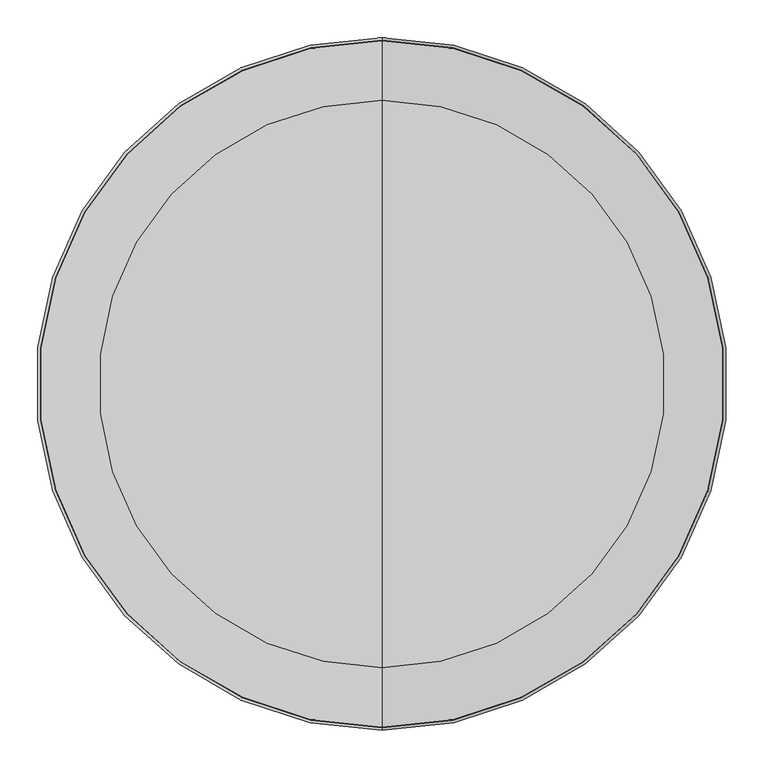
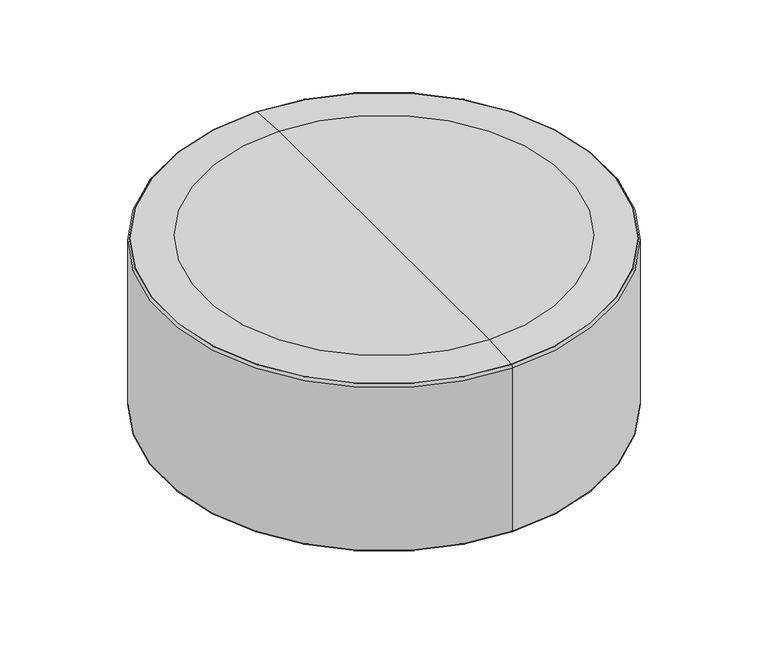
"""IFC4 building model written with IfcOpenShell, lengths in millimetres: furniture geometry, Indiana-Otty-Ottoman_Round : 840-3615RO."""

from ifc_helpers import new_model, si_unit, point, frame, origin, place, context, project, spatial, polyline, circle_curve, ellipse_curve, trimmed, source, transform, mapped, element, save
from ifc_brep_helpers import plane_surface, cylinder_surface, revolved_surface, advanced_brep


def furniture_98ce93dc(model_context):
    return source(origin(), model_context, "Body", "AdvancedBrep", [
        advanced_brep(
        [(374.4189295, 85.5904719, 19.8875), (354.9333579, 96.8404719, 19.8875), (393.9045011, 74.3404719, 19.8875), (355.3217632, 96.616226, 4.2458827), (393.5160958, 74.5647178, 4.2458827), (359.2060099, 94.3736551, -0.1125), (389.6318491, 76.8072887, -0.1125), (365.5269116, 90.7242808, -0.1125), (383.3109474, 80.456663, -0.1125), (368.8996269, 88.7770427, 3.9179615), (379.9382321, 82.4039011, 3.9179615), (374.4189295, 85.5904719, 3.9179615)],
        [
            (0, 1),
            (1, 2, circle_curve(frame((374.4189295, 85.5904719, 19.8875), z_axis=(0.0, 0.0, 1.0), x_axis=(-0.8660254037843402, 0.5000000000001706, 0.0)), 22.5)),
            (2, 0),
            (2, 1, circle_curve(frame((374.4189295, 85.5904719, 19.8875), z_axis=(0.0, 0.0, 1.0), x_axis=(-0.8660254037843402, 0.5000000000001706, 0.0)), 22.5)),
            (1, 3),
            (3, 4, circle_curve(frame((374.4189295, 85.5904719, 4.2458827), z_axis=(0.0, 0.0, 1.0), x_axis=(-0.8660254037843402, 0.5000000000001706, 0.0)), 22.0515082)),
            (4, 2),
            (4, 3, circle_curve(frame((374.4189295, 85.5904719, 4.2458827), z_axis=(0.0, 0.0, 1.0), x_axis=(-0.8660254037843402, 0.5000000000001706, 0.0)), 22.0515082)),
            (3, 5, circle_curve(frame((359.2060099, 94.3736551, 4.3744851), z_axis=(-0.5000000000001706, -0.8660254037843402, 0.0), x_axis=(0.8660254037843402, -0.5000000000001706, 0.0)), 4.4869851)),
            (5, 6, circle_curve(frame((374.4189295, 85.5904719, -0.1125), z_axis=(0.0, 0.0, 1.0), x_axis=(-0.8660254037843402, 0.5000000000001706, 0.0)), 17.5663665)),
            (6, 4, circle_curve(frame((389.6318491, 76.8072887, 4.3744851), z_axis=(-0.5000000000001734, -0.8660254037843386, 0.0), x_axis=(-0.8660254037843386, 0.5000000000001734, 0.0)), 4.4869851)),
            (6, 5, circle_curve(frame((374.4189295, 85.5904719, -0.1125), z_axis=(0.0, 0.0, 1.0), x_axis=(-0.8660254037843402, 0.5000000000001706, 0.0)), 17.5663665)),
            (5, 7),
            (7, 8, circle_curve(frame((374.4189295, 85.5904719, -0.1125), z_axis=(0.0, 0.0, 1.0), x_axis=(-0.8660254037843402, 0.5000000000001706, 0.0)), 10.2676178)),
            (8, 6),
            (8, 7, circle_curve(frame((374.4189295, 85.5904719, -0.1125), z_axis=(0.0, 0.0, 1.0), x_axis=(-0.8660254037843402, 0.5000000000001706, 0.0)), 10.2676178)),
            (7, 9, circle_curve(frame((365.5269116, 90.7242808, 3.7842702), z_axis=(-0.5000000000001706, -0.8660254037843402, 0.0), x_axis=(0.8660254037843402, -0.5000000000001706, 0.0)), 3.8967702)),
            (9, 10, circle_curve(frame((374.4189295, 85.5904719, 3.9179615), z_axis=(0.0, 0.0, 1.0), x_axis=(-0.8660254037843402, 0.5000000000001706, 0.0)), 6.3731417)),
            (10, 8, circle_curve(frame((383.3109474, 80.456663, 3.7842702), z_axis=(-0.5000000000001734, -0.8660254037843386, 0.0), x_axis=(-0.8660254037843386, 0.5000000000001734, 0.0)), 3.8967702)),
            (10, 9, circle_curve(frame((374.4189295, 85.5904719, 3.9179615), z_axis=(0.0, 0.0, 1.0), x_axis=(-0.8660254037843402, 0.5000000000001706, 0.0)), 6.3731417)),
            (9, 11),
            (11, 10),
        ],
        [
            plane_surface(frame((374.4189295, 85.5904719, 19.8875), z_axis=(0.0, 0.0, 1.0000000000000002), x_axis=(-0.8660254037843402, 0.5000000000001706, 0.0))),
            revolved_surface(polyline([(355.3217632, 96.616226, 4.2458827), (354.9333579, 96.8404719, 19.8875)]), (374.4189295, 85.5904719, 31.0803862), (0.0, 0.0, 1.0)),
            revolved_surface(trimmed(ellipse_curve(frame((359.2060099, 94.3736551, 4.3744851), z_axis=(0.5000000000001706, 0.8660254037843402, 0.0), x_axis=(0.8660254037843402, -0.5000000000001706, 0.0)), 4.4869851, 4.4869851), [point((359.2060099, 94.3736551, -0.1125))], [point((355.3217632, 96.616226, 4.2458827))], True, "CARTESIAN"), (374.4189295, 85.5904719, 31.0803862), (0.0, 0.0, 1.0)),
            plane_surface(frame((374.4189295, 85.5904719, -0.1125), z_axis=(0.0, 0.0, -1.0000000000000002), x_axis=(-0.8660254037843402, 0.5000000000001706, 0.0))),
            revolved_surface(trimmed(ellipse_curve(frame((365.5269116, 90.7242808, 3.7842702), z_axis=(0.5000000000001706, 0.8660254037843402, 0.0), x_axis=(0.8660254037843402, -0.5000000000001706, 0.0)), 3.8967702, 3.8967702), [point((368.8996269, 88.7770427, 3.9179615))], [point((365.5269116, 90.7242808, -0.1125))], True, "CARTESIAN"), (374.4189295, 85.5904719, 31.0803862), (0.0, 0.0, 1.0)),
            plane_surface(frame((374.4189295, 85.5904719, 3.9179615), z_axis=(0.0, 0.0, -1.0000000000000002), x_axis=(-0.8660254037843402, 0.5000000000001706, 0.0))),
        ],
        [
            (0, [[1, 2, 3]]),
            (0, [[-3, 4, -1]]),
            (1, [[-2, 5, 6, 7]]),
            (1, [[-4, -7, 8, -5]]),
            (2, [[-6, 9, 10, 11]]),
            (2, [[-8, -11, 12, -9]]),
            (3, [[-10, 13, 14, 15]]),
            (3, [[-12, -15, 16, -13]]),
            (4, [[-14, 17, 18, 19]]),
            (4, [[-16, -19, 20, -17]]),
            (5, [[-18, 21, 22]]),
            (5, [[-20, -22, -21]]),
        ],
    ),
        advanced_brep(
        [(261.3329878, -281.4610687, 19.8875), (261.3329878, -258.9610687, 19.8875), (261.3329878, -303.9610687, 19.8875), (261.3329878, -259.4095604, 4.2458827), (261.3329878, -303.5125769, 4.2458827), (261.3329878, -263.8947022, -0.1125), (261.3329878, -299.0274351, -0.1125), (261.3329878, -271.1934508, -0.1125), (261.3329878, -291.7286865, -0.1125), (261.3329878, -275.087927, 3.9179615), (261.3329878, -287.8342103, 3.9179615), (261.3329878, -281.4610687, 3.9179615)],
        [
            (0, 1),
            (1, 2, circle_curve(frame((261.3329878, -281.4610687, 19.8875), z_axis=(0.0, 0.0, 1.0), x_axis=(0.0, 1.0, 0.0)), 22.5)),
            (2, 0),
            (2, 1, circle_curve(frame((261.3329878, -281.4610687, 19.8875), z_axis=(0.0, 0.0, 1.0), x_axis=(0.0, 1.0, 0.0)), 22.5)),
            (1, 3),
            (3, 4, circle_curve(frame((261.3329878, -281.4610687, 4.2458827), z_axis=(0.0, 0.0, 1.0), x_axis=(0.0, 1.0, 0.0)), 22.0515082)),
            (4, 2),
            (4, 3, circle_curve(frame((261.3329878, -281.4610687, 4.2458827), z_axis=(0.0, 0.0, 1.0), x_axis=(0.0, 1.0, 0.0)), 22.0515082)),
            (3, 5, circle_curve(frame((261.3329878, -263.8947022, 4.3744851), z_axis=(-1.0, 0.0, 0.0), x_axis=(0.0, -1.0, 0.0)), 4.4869851)),
            (5, 6, circle_curve(frame((261.3329878, -281.4610687, -0.1125), z_axis=(0.0, 0.0, 1.0), x_axis=(0.0, 1.0, 0.0)), 17.5663665)),
            (6, 4, circle_curve(frame((261.3329878, -299.0274351, 4.3744851), z_axis=(-1.0, 0.0, 0.0), x_axis=(0.0, 1.0, 0.0)), 4.4869851)),
            (6, 5, circle_curve(frame((261.3329878, -281.4610687, -0.1125), z_axis=(0.0, 0.0, 1.0), x_axis=(0.0, 1.0, 0.0)), 17.5663665)),
            (5, 7),
            (7, 8, circle_curve(frame((261.3329878, -281.4610687, -0.1125), z_axis=(0.0, 0.0, 1.0), x_axis=(0.0, 1.0, 0.0)), 10.2676178)),
            (8, 6),
            (8, 7, circle_curve(frame((261.3329878, -281.4610687, -0.1125), z_axis=(0.0, 0.0, 1.0), x_axis=(0.0, 1.0, 0.0)), 10.2676178)),
            (7, 9, circle_curve(frame((261.3329878, -271.1934508, 3.7842702), z_axis=(-1.0, 0.0, 0.0), x_axis=(0.0, -1.0, 0.0)), 3.8967702)),
            (9, 10, circle_curve(frame((261.3329878, -281.4610687, 3.9179615), z_axis=(0.0, 0.0, 1.0), x_axis=(0.0, 1.0, 0.0)), 6.3731417)),
            (10, 8, circle_curve(frame((261.3329878, -291.7286865, 3.7842702), z_axis=(-1.0, 0.0, 0.0), x_axis=(0.0, 1.0, 0.0)), 3.8967702)),
            (10, 9, circle_curve(frame((261.3329878, -281.4610687, 3.9179615), z_axis=(0.0, 0.0, 1.0), x_axis=(0.0, 1.0, 0.0)), 6.3731417)),
            (9, 11),
            (11, 10),
        ],
        [
            plane_surface(frame((261.3329878, -281.4610687, 19.8875), z_axis=(0.0, 0.0, 1.0), x_axis=(0.0, 1.0, 0.0))),
            revolved_surface(polyline([(261.3329878, -259.4095604, 4.2458827), (261.3329878, -258.9610687, 19.8875)]), (261.3329878, -281.4610687, 31.0803862), (0.0, 0.0, 1.0)),
            revolved_surface(trimmed(ellipse_curve(frame((261.3329878, -263.8947022, 4.3744851), z_axis=(1.0, 0.0, 0.0), x_axis=(0.0, -1.0, 0.0)), 4.4869851, 4.4869851), [point((261.3329878, -263.8947022, -0.1125))], [point((261.3329878, -259.4095604, 4.2458827))], True, "CARTESIAN"), (261.3329878, -281.4610687, 31.0803862), (0.0, 0.0, 1.0)),
            plane_surface(frame((261.3329878, -281.4610687, -0.1125), z_axis=(0.0, 0.0, -1.0), x_axis=(0.0, 1.0, 0.0))),
            revolved_surface(trimmed(ellipse_curve(frame((261.3329878, -271.1934508, 3.7842702), z_axis=(1.0, 0.0, 0.0), x_axis=(0.0, -1.0, 0.0)), 3.8967702, 3.8967702), [point((261.3329878, -275.087927, 3.9179615))], [point((261.3329878, -271.1934508, -0.1125))], True, "CARTESIAN"), (261.3329878, -281.4610687, 31.0803862), (0.0, 0.0, 1.0)),
            plane_surface(frame((261.3329878, -281.4610687, 3.9179615), z_axis=(0.0, 0.0, -1.0), x_axis=(0.0, 1.0, 0.0))),
        ],
        [
            (0, [[1, 2, 3]]),
            (0, [[-3, 4, -1]]),
            (1, [[-2, 5, 6, 7]]),
            (1, [[-4, -7, 8, -5]]),
            (2, [[-6, 9, 10, 11]]),
            (2, [[-8, -11, 12, -9]]),
            (3, [[-10, 13, 14, 15]]),
            (3, [[-12, -15, 16, -13]]),
            (4, [[-14, 17, 18, 19]]),
            (4, [[-16, -19, 20, -17]]),
            (5, [[-18, 21, 22]]),
            (5, [[-20, -22, -21]]),
        ],
    ),
        advanced_brep(
        [(-113.0859418, -367.0515406, 19.8875), (-93.6003702, -355.8015406, 19.8875), (-132.5715133, -378.3015406, 19.8875), (-93.9887754, -356.0257864, 4.2458827), (-132.1831081, -378.0772947, 4.2458827), (-97.8730221, -358.2683573, -0.1125), (-128.2988614, -375.8347238, -0.1125), (-104.1939239, -361.9177316, -0.1125), (-121.9779596, -372.1853495, -0.1125), (-107.5666392, -363.8649697, 3.9179615), (-118.6052443, -370.2381114, 3.9179615), (-113.0859418, -367.0515406, 3.9179615)],
        [
            (0, 1),
            (1, 2, circle_curve(frame((-113.0859418, -367.0515406, 19.8875), z_axis=(0.0, 0.0, 1.0), x_axis=(0.8660254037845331, 0.49999999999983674, 0.0)), 22.5)),
            (2, 0),
            (2, 1, circle_curve(frame((-113.0859418, -367.0515406, 19.8875), z_axis=(0.0, 0.0, 1.0), x_axis=(0.8660254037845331, 0.49999999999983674, 0.0)), 22.5)),
            (1, 3),
            (3, 4, circle_curve(frame((-113.0859418, -367.0515406, 4.2458827), z_axis=(0.0, 0.0, 1.0), x_axis=(0.8660254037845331, 0.49999999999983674, 0.0)), 22.0515082)),
            (4, 2),
            (4, 3, circle_curve(frame((-113.0859418, -367.0515406, 4.2458827), z_axis=(0.0, 0.0, 1.0), x_axis=(0.8660254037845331, 0.49999999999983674, 0.0)), 22.0515082)),
            (3, 5, circle_curve(frame((-97.8730221, -358.2683573, 4.3744851), z_axis=(-0.49999999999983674, 0.8660254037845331, 0.0), x_axis=(-0.8660254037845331, -0.49999999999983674, 0.0)), 4.4869851)),
            (5, 6, circle_curve(frame((-113.0859418, -367.0515406, -0.1125), z_axis=(0.0, 0.0, 1.0), x_axis=(0.8660254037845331, 0.49999999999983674, 0.0)), 17.5663665)),
            (6, 4, circle_curve(frame((-128.2988614, -375.8347238, 4.3744851), z_axis=(-0.49999999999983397, 0.8660254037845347, 0.0), x_axis=(0.8660254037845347, 0.49999999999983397, 0.0)), 4.4869851)),
            (6, 5, circle_curve(frame((-113.0859418, -367.0515406, -0.1125), z_axis=(0.0, 0.0, 1.0), x_axis=(0.8660254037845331, 0.49999999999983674, 0.0)), 17.5663665)),
            (5, 7),
            (7, 8, circle_curve(frame((-113.0859418, -367.0515406, -0.1125), z_axis=(0.0, 0.0, 1.0), x_axis=(0.8660254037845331, 0.49999999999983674, 0.0)), 10.2676178)),
            (8, 6),
            (8, 7, circle_curve(frame((-113.0859418, -367.0515406, -0.1125), z_axis=(0.0, 0.0, 1.0), x_axis=(0.8660254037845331, 0.49999999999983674, 0.0)), 10.2676178)),
            (7, 9, circle_curve(frame((-104.1939239, -361.9177316, 3.7842702), z_axis=(-0.49999999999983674, 0.8660254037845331, 0.0), x_axis=(-0.8660254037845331, -0.49999999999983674, 0.0)), 3.8967702)),
            (9, 10, circle_curve(frame((-113.0859418, -367.0515406, 3.9179615), z_axis=(0.0, 0.0, 1.0), x_axis=(0.8660254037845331, 0.49999999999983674, 0.0)), 6.3731417)),
            (10, 8, circle_curve(frame((-121.9779596, -372.1853495, 3.7842702), z_axis=(-0.49999999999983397, 0.8660254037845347, 0.0), x_axis=(0.8660254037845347, 0.49999999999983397, 0.0)), 3.8967702)),
            (10, 9, circle_curve(frame((-113.0859418, -367.0515406, 3.9179615), z_axis=(0.0, 0.0, 1.0), x_axis=(0.8660254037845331, 0.49999999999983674, 0.0)), 6.3731417)),
            (9, 11),
            (11, 10),
        ],
        [
            plane_surface(frame((-113.0859418, -367.0515406, 19.8875), z_axis=(0.0, 0.0, 1.0000000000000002), x_axis=(0.8660254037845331, 0.49999999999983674, 0.0))),
            revolved_surface(polyline([(-93.9887754, -356.0257864, 4.2458827), (-93.6003702, -355.8015406, 19.8875)]), (-113.0859418, -367.0515406, 31.0803862), (0.0, 0.0, 1.0)),
            revolved_surface(trimmed(ellipse_curve(frame((-97.8730221, -358.2683573, 4.3744851), z_axis=(0.49999999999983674, -0.8660254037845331, 0.0), x_axis=(-0.8660254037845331, -0.49999999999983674, 0.0)), 4.4869851, 4.4869851), [point((-97.8730221, -358.2683573, -0.1125))], [point((-93.9887754, -356.0257864, 4.2458827))], True, "CARTESIAN"), (-113.0859418, -367.0515406, 31.0803862), (0.0, 0.0, 1.0)),
            plane_surface(frame((-113.0859418, -367.0515406, -0.1125), z_axis=(0.0, 0.0, -1.0000000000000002), x_axis=(0.8660254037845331, 0.49999999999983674, 0.0))),
            revolved_surface(trimmed(ellipse_curve(frame((-104.1939239, -361.9177316, 3.7842702), z_axis=(0.49999999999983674, -0.8660254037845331, 0.0), x_axis=(-0.8660254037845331, -0.49999999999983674, 0.0)), 3.8967702, 3.8967702), [point((-107.5666392, -363.8649697, 3.9179615))], [point((-104.1939239, -361.9177316, -0.1125))], True, "CARTESIAN"), (-113.0859418, -367.0515406, 31.0803862), (0.0, 0.0, 1.0)),
            plane_surface(frame((-113.0859418, -367.0515406, 3.9179615), z_axis=(0.0, 0.0, -1.0000000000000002), x_axis=(0.8660254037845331, 0.49999999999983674, 0.0))),
        ],
        [
            (0, [[1, 2, 3]]),
            (0, [[-3, 4, -1]]),
            (1, [[-2, 5, 6, 7]]),
            (1, [[-4, -7, 8, -5]]),
            (2, [[-6, 9, 10, 11]]),
            (2, [[-8, -11, 12, -9]]),
            (3, [[-10, 13, 14, 15]]),
            (3, [[-12, -15, 16, -13]]),
            (4, [[-14, 17, 18, 19]]),
            (4, [[-16, -19, 20, -17]]),
            (5, [[-18, 21, 22]]),
            (5, [[-20, -22, -21]]),
        ],
    ),
        advanced_brep(
        [(-374.4189295, -85.5904719, 19.8875), (-354.9333579, -96.8404719, 19.8875), (-393.9045011, -74.3404719, 19.8875), (-355.3217632, -96.616226, 4.2458827), (-393.5160958, -74.5647178, 4.2458827), (-359.2060099, -94.3736551, -0.1125), (-389.6318491, -76.8072887, -0.1125), (-365.5269116, -90.7242808, -0.1125), (-383.3109474, -80.456663, -0.1125), (-368.8996269, -88.7770427, 3.9179615), (-379.9382321, -82.4039011, 3.9179615), (-374.4189295, -85.5904719, 3.9179615)],
        [
            (0, 1),
            (1, 2, circle_curve(frame((-374.4189295, -85.5904719, 19.8875), z_axis=(0.0, 0.0, 1.0), x_axis=(0.8660254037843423, -0.500000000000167, 0.0)), 22.5)),
            (2, 0),
            (2, 1, circle_curve(frame((-374.4189295, -85.5904719, 19.8875), z_axis=(0.0, 0.0, 1.0), x_axis=(0.8660254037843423, -0.500000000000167, 0.0)), 22.5)),
            (1, 3),
            (3, 4, circle_curve(frame((-374.4189295, -85.5904719, 4.2458827), z_axis=(0.0, 0.0, 1.0), x_axis=(0.8660254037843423, -0.500000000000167, 0.0)), 22.0515082)),
            (4, 2),
            (4, 3, circle_curve(frame((-374.4189295, -85.5904719, 4.2458827), z_axis=(0.0, 0.0, 1.0), x_axis=(0.8660254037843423, -0.500000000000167, 0.0)), 22.0515082)),
            (3, 5, circle_curve(frame((-359.2060099, -94.3736551, 4.3744851), z_axis=(0.500000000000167, 0.8660254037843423, 0.0), x_axis=(-0.8660254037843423, 0.500000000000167, 0.0)), 4.4869851)),
            (5, 6, circle_curve(frame((-374.4189295, -85.5904719, -0.1125), z_axis=(0.0, 0.0, 1.0), x_axis=(0.8660254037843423, -0.500000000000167, 0.0)), 17.5663665)),
            (6, 4, circle_curve(frame((-389.6318491, -76.8072887, 4.3744851), z_axis=(0.5000000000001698, 0.8660254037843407, 0.0), x_axis=(0.8660254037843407, -0.5000000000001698, 0.0)), 4.4869851)),
            (6, 5, circle_curve(frame((-374.4189295, -85.5904719, -0.1125), z_axis=(0.0, 0.0, 1.0), x_axis=(0.8660254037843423, -0.500000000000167, 0.0)), 17.5663665)),
            (5, 7),
            (7, 8, circle_curve(frame((-374.4189295, -85.5904719, -0.1125), z_axis=(0.0, 0.0, 1.0), x_axis=(0.8660254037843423, -0.500000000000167, 0.0)), 10.2676178)),
            (8, 6),
            (8, 7, circle_curve(frame((-374.4189295, -85.5904719, -0.1125), z_axis=(0.0, 0.0, 1.0), x_axis=(0.8660254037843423, -0.500000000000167, 0.0)), 10.2676178)),
            (7, 9, circle_curve(frame((-365.5269116, -90.7242808, 3.7842702), z_axis=(0.500000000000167, 0.8660254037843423, 0.0), x_axis=(-0.8660254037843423, 0.500000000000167, 0.0)), 3.8967702)),
            (9, 10, circle_curve(frame((-374.4189295, -85.5904719, 3.9179615), z_axis=(0.0, 0.0, 1.0), x_axis=(0.8660254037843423, -0.500000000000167, 0.0)), 6.3731417)),
            (10, 8, circle_curve(frame((-383.3109474, -80.456663, 3.7842702), z_axis=(0.5000000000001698, 0.8660254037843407, 0.0), x_axis=(0.8660254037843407, -0.5000000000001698, 0.0)), 3.8967702)),
            (10, 9, circle_curve(frame((-374.4189295, -85.5904719, 3.9179615), z_axis=(0.0, 0.0, 1.0), x_axis=(0.8660254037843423, -0.500000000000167, 0.0)), 6.3731417)),
            (9, 11),
            (11, 10),
        ],
        [
            plane_surface(frame((-374.4189295, -85.5904719, 19.8875), z_axis=(0.0, 0.0, 1.0000000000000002), x_axis=(0.8660254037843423, -0.500000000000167, 0.0))),
            revolved_surface(polyline([(-355.3217632, -96.616226, 4.2458827), (-354.9333579, -96.8404719, 19.8875)]), (-374.4189295, -85.5904719, 31.0803862), (0.0, 0.0, 1.0)),
            revolved_surface(trimmed(ellipse_curve(frame((-359.2060099, -94.3736551, 4.3744851), z_axis=(-0.500000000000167, -0.8660254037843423, 0.0), x_axis=(-0.8660254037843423, 0.500000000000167, 0.0)), 4.4869851, 4.4869851), [point((-359.2060099, -94.3736551, -0.1125))], [point((-355.3217632, -96.616226, 4.2458827))], True, "CARTESIAN"), (-374.4189295, -85.5904719, 31.0803862), (0.0, 0.0, 1.0)),
            plane_surface(frame((-374.4189295, -85.5904719, -0.1125), z_axis=(0.0, 0.0, -1.0000000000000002), x_axis=(0.8660254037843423, -0.500000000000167, 0.0))),
            revolved_surface(trimmed(ellipse_curve(frame((-365.5269116, -90.7242808, 3.7842702), z_axis=(-0.500000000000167, -0.8660254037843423, 0.0), x_axis=(-0.8660254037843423, 0.500000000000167, 0.0)), 3.8967702, 3.8967702), [point((-368.8996269, -88.7770427, 3.9179615))], [point((-365.5269116, -90.7242808, -0.1125))], True, "CARTESIAN"), (-374.4189295, -85.5904719, 31.0803862), (0.0, 0.0, 1.0)),
            plane_surface(frame((-374.4189295, -85.5904719, 3.9179615), z_axis=(0.0, 0.0, -1.0000000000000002), x_axis=(0.8660254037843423, -0.500000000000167, 0.0))),
        ],
        [
            (0, [[1, 2, 3]]),
            (0, [[-3, 4, -1]]),
            (1, [[-2, 5, 6, 7]]),
            (1, [[-4, -7, 8, -5]]),
            (2, [[-6, 9, 10, 11]]),
            (2, [[-8, -11, 12, -9]]),
            (3, [[-10, 13, 14, 15]]),
            (3, [[-12, -15, 16, -13]]),
            (4, [[-14, 17, 18, 19]]),
            (4, [[-16, -19, 20, -17]]),
            (5, [[-18, 21, 22]]),
            (5, [[-20, -22, -21]]),
        ],
    ),
        advanced_brep(
        [(113.0859418, 367.0515406, 19.8875), (93.6003702, 355.8015406, 19.8875), (132.5715133, 378.3015406, 19.8875), (93.9887754, 356.0257864, 4.2458827), (132.1831081, 378.0772947, 4.2458827), (97.8730221, 358.2683573, -0.1125), (128.2988614, 375.8347238, -0.1125), (104.1939239, 361.9177316, -0.1125), (121.9779596, 372.1853495, -0.1125), (107.5666392, 363.8649697, 3.9179615), (118.6052443, 370.2381114, 3.9179615), (113.0859418, 367.0515406, 3.9179615)],
        [
            (0, 1),
            (1, 2, circle_curve(frame((113.0859418, 367.0515406, 19.8875), z_axis=(0.0, 0.0, 1.0), x_axis=(-0.8660254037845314, -0.49999999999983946, 0.0)), 22.5)),
            (2, 0),
            (2, 1, circle_curve(frame((113.0859418, 367.0515406, 19.8875), z_axis=(0.0, 0.0, 1.0), x_axis=(-0.8660254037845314, -0.49999999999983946, 0.0)), 22.5)),
            (1, 3),
            (3, 4, circle_curve(frame((113.0859418, 367.0515406, 4.2458827), z_axis=(0.0, 0.0, 1.0), x_axis=(-0.8660254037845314, -0.49999999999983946, 0.0)), 22.0515082)),
            (4, 2),
            (4, 3, circle_curve(frame((113.0859418, 367.0515406, 4.2458827), z_axis=(0.0, 0.0, 1.0), x_axis=(-0.8660254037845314, -0.49999999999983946, 0.0)), 22.0515082)),
            (3, 5, circle_curve(frame((97.8730221, 358.2683573, 4.3744851), z_axis=(0.49999999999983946, -0.8660254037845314, 0.0), x_axis=(0.8660254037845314, 0.49999999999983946, 0.0)), 4.4869851)),
            (5, 6, circle_curve(frame((113.0859418, 367.0515406, -0.1125), z_axis=(0.0, 0.0, 1.0), x_axis=(-0.8660254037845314, -0.49999999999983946, 0.0)), 17.5663665)),
            (6, 4, circle_curve(frame((128.2988614, 375.8347238, 4.3744851), z_axis=(0.4999999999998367, -0.8660254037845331, 0.0), x_axis=(-0.8660254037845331, -0.4999999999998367, 0.0)), 4.4869851)),
            (6, 5, circle_curve(frame((113.0859418, 367.0515406, -0.1125), z_axis=(0.0, 0.0, 1.0), x_axis=(-0.8660254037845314, -0.49999999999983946, 0.0)), 17.5663665)),
            (5, 7),
            (7, 8, circle_curve(frame((113.0859418, 367.0515406, -0.1125), z_axis=(0.0, 0.0, 1.0), x_axis=(-0.8660254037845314, -0.49999999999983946, 0.0)), 10.2676178)),
            (8, 6),
            (8, 7, circle_curve(frame((113.0859418, 367.0515406, -0.1125), z_axis=(0.0, 0.0, 1.0), x_axis=(-0.8660254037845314, -0.49999999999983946, 0.0)), 10.2676178)),
            (7, 9, circle_curve(frame((104.1939239, 361.9177316, 3.7842702), z_axis=(0.49999999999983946, -0.8660254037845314, 0.0), x_axis=(0.8660254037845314, 0.49999999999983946, 0.0)), 3.8967702)),
            (9, 10, circle_curve(frame((113.0859418, 367.0515406, 3.9179615), z_axis=(0.0, 0.0, 1.0), x_axis=(-0.8660254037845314, -0.49999999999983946, 0.0)), 6.3731417)),
            (10, 8, circle_curve(frame((121.9779596, 372.1853495, 3.7842702), z_axis=(0.4999999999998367, -0.8660254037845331, 0.0), x_axis=(-0.8660254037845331, -0.4999999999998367, 0.0)), 3.8967702)),
            (10, 9, circle_curve(frame((113.0859418, 367.0515406, 3.9179615), z_axis=(0.0, 0.0, 1.0), x_axis=(-0.8660254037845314, -0.49999999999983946, 0.0)), 6.3731417)),
            (9, 11),
            (11, 10),
        ],
        [
            plane_surface(frame((113.0859418, 367.0515406, 19.8875), z_axis=(0.0, 0.0, 1.0), x_axis=(-0.8660254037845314, -0.49999999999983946, 0.0))),
            revolved_surface(polyline([(93.9887754, 356.0257864, 4.2458827), (93.6003702, 355.8015406, 19.8875)]), (113.0859418, 367.0515406, 31.0803862), (0.0, 0.0, 1.0)),
            revolved_surface(trimmed(ellipse_curve(frame((97.8730221, 358.2683573, 4.3744851), z_axis=(-0.49999999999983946, 0.8660254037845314, 0.0), x_axis=(0.8660254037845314, 0.49999999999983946, 0.0)), 4.4869851, 4.4869851), [point((97.8730221, 358.2683573, -0.1125))], [point((93.9887754, 356.0257864, 4.2458827))], True, "CARTESIAN"), (113.0859418, 367.0515406, 31.0803862), (0.0, 0.0, 1.0)),
            plane_surface(frame((113.0859418, 367.0515406, -0.1125), z_axis=(0.0, 0.0, -1.0), x_axis=(-0.8660254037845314, -0.49999999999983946, 0.0))),
            revolved_surface(trimmed(ellipse_curve(frame((104.1939239, 361.9177316, 3.7842702), z_axis=(-0.49999999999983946, 0.8660254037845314, 0.0), x_axis=(0.8660254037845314, 0.49999999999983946, 0.0)), 3.8967702, 3.8967702), [point((107.5666392, 363.8649697, 3.9179615))], [point((104.1939239, 361.9177316, -0.1125))], True, "CARTESIAN"), (113.0859418, 367.0515406, 31.0803862), (0.0, 0.0, 1.0)),
            plane_surface(frame((113.0859418, 367.0515406, 3.9179615), z_axis=(0.0, 0.0, -1.0), x_axis=(-0.8660254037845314, -0.49999999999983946, 0.0))),
        ],
        [
            (0, [[1, 2, 3]]),
            (0, [[-3, 4, -1]]),
            (1, [[-2, 5, 6, 7]]),
            (1, [[-4, -7, 8, -5]]),
            (2, [[-6, 9, 10, 11]]),
            (2, [[-8, -11, 12, -9]]),
            (3, [[-10, 13, 14, 15]]),
            (3, [[-12, -15, 16, -13]]),
            (4, [[-14, 17, 18, 19]]),
            (4, [[-16, -19, 20, -17]]),
            (5, [[-18, 21, 22]]),
            (5, [[-20, -22, -21]]),
        ],
    ),
        advanced_brep(
        [(-261.3329878, 281.4610687, 19.8875), (-261.3329878, 258.9610687, 19.8875), (-261.3329878, 303.9610687, 19.8875), (-261.3329878, 259.4095604, 4.2458827), (-261.3329878, 303.5125769, 4.2458827), (-261.3329878, 263.8947022, -0.1125), (-261.3329878, 299.0274351, -0.1125), (-261.3329878, 271.1934508, -0.1125), (-261.3329878, 291.7286865, -0.1125), (-261.3329878, 275.087927, 3.9179615), (-261.3329878, 287.8342103, 3.9179615), (-261.3329878, 281.4610687, 3.9179615)],
        [
            (0, 1),
            (1, 2, circle_curve(frame((-261.3329878, 281.4610687, 19.8875), z_axis=(0.0, 0.0, 1.0), x_axis=(0.0, -1.0, 0.0)), 22.5)),
            (2, 0),
            (2, 1, circle_curve(frame((-261.3329878, 281.4610687, 19.8875), z_axis=(0.0, 0.0, 1.0), x_axis=(0.0, -1.0, 0.0)), 22.5)),
            (1, 3),
            (3, 4, circle_curve(frame((-261.3329878, 281.4610687, 4.2458827), z_axis=(0.0, 0.0, 1.0), x_axis=(0.0, -1.0, 0.0)), 22.0515082)),
            (4, 2),
            (4, 3, circle_curve(frame((-261.3329878, 281.4610687, 4.2458827), z_axis=(0.0, 0.0, 1.0), x_axis=(0.0, -1.0, 0.0)), 22.0515082)),
            (3, 5, circle_curve(frame((-261.3329878, 263.8947022, 4.3744851), z_axis=(1.0, 0.0, 0.0), x_axis=(0.0, 1.0, 0.0)), 4.4869851)),
            (5, 6, circle_curve(frame((-261.3329878, 281.4610687, -0.1125), z_axis=(0.0, 0.0, 1.0), x_axis=(0.0, -1.0, 0.0)), 17.5663665)),
            (6, 4, circle_curve(frame((-261.3329878, 299.0274351, 4.3744851), z_axis=(1.0, 0.0, 0.0), x_axis=(0.0, -1.0, 0.0)), 4.4869851)),
            (6, 5, circle_curve(frame((-261.3329878, 281.4610687, -0.1125), z_axis=(0.0, 0.0, 1.0), x_axis=(0.0, -1.0, 0.0)), 17.5663665)),
            (5, 7),
            (7, 8, circle_curve(frame((-261.3329878, 281.4610687, -0.1125), z_axis=(0.0, 0.0, 1.0), x_axis=(0.0, -1.0, 0.0)), 10.2676178)),
            (8, 6),
            (8, 7, circle_curve(frame((-261.3329878, 281.4610687, -0.1125), z_axis=(0.0, 0.0, 1.0), x_axis=(0.0, -1.0, 0.0)), 10.2676178)),
            (7, 9, circle_curve(frame((-261.3329878, 271.1934508, 3.7842702), z_axis=(1.0, 0.0, 0.0), x_axis=(0.0, 1.0, 0.0)), 3.8967702)),
            (9, 10, circle_curve(frame((-261.3329878, 281.4610687, 3.9179615), z_axis=(0.0, 0.0, 1.0), x_axis=(0.0, -1.0, 0.0)), 6.3731417)),
            (10, 8, circle_curve(frame((-261.3329878, 291.7286865, 3.7842702), z_axis=(1.0, 0.0, 0.0), x_axis=(0.0, -1.0, 0.0)), 3.8967702)),
            (10, 9, circle_curve(frame((-261.3329878, 281.4610687, 3.9179615), z_axis=(0.0, 0.0, 1.0), x_axis=(0.0, -1.0, 0.0)), 6.3731417)),
            (9, 11),
            (11, 10),
        ],
        [
            plane_surface(frame((-261.3329878, 281.4610687, 19.8875), z_axis=(0.0, 0.0, 1.0), x_axis=(0.0, -1.0, 0.0))),
            revolved_surface(polyline([(-261.3329878, 259.4095604, 4.2458827), (-261.3329878, 258.9610687, 19.8875)]), (-261.3329878, 281.4610687, 31.0803862), (0.0, 0.0, 1.0)),
            revolved_surface(trimmed(ellipse_curve(frame((-261.3329878, 263.8947022, 4.3744851), z_axis=(-1.0, 0.0, 0.0), x_axis=(0.0, 1.0, 0.0)), 4.4869851, 4.4869851), [point((-261.3329878, 263.8947022, -0.1125))], [point((-261.3329878, 259.4095604, 4.2458827))], True, "CARTESIAN"), (-261.3329878, 281.4610687, 31.0803862), (0.0, 0.0, 1.0)),
            plane_surface(frame((-261.3329878, 281.4610687, -0.1125), z_axis=(0.0, 0.0, -1.0), x_axis=(0.0, -1.0, 0.0))),
            revolved_surface(trimmed(ellipse_curve(frame((-261.3329878, 271.1934508, 3.7842702), z_axis=(-1.0, 0.0, 0.0), x_axis=(0.0, 1.0, 0.0)), 3.8967702, 3.8967702), [point((-261.3329878, 275.087927, 3.9179615))], [point((-261.3329878, 271.1934508, -0.1125))], True, "CARTESIAN"), (-261.3329878, 281.4610687, 31.0803862), (0.0, 0.0, 1.0)),
            plane_surface(frame((-261.3329878, 281.4610687, 3.9179615), z_axis=(0.0, 0.0, -1.0), x_axis=(0.0, -1.0, 0.0))),
        ],
        [
            (0, [[1, 2, 3]]),
            (0, [[-3, 4, -1]]),
            (1, [[-2, 5, 6, 7]]),
            (1, [[-4, -7, 8, -5]]),
            (2, [[-6, 9, 10, 11]]),
            (2, [[-8, -11, 12, -9]]),
            (3, [[-10, 13, 14, 15]]),
            (3, [[-12, -15, 16, -13]]),
            (4, [[-14, 17, 18, 19]]),
            (4, [[-16, -19, 20, -17]]),
            (5, [[-18, 21, 22]]),
            (5, [[-20, -22, -21]]),
        ],
    ),
        advanced_brep(
        [(0.0, 457.2, 14.675), (0.0, 454.025, 11.5), (0.0, -454.025, 11.5), (0.0, -457.2, 14.675), (0.0, 457.2, 369.0), (0.0, -457.2, 369.0), (0.0, 453.9317905, 375.2073863), (0.0, -453.9317905, 375.2073863), (0.0, 453.2, 374.9999966), (0.0, -453.2, 374.9999966), (0.0, 374.65, 381.0), (0.0, -374.65, 381.0), (0.0, 0.0, 381.0), (0.0, 0.0, 11.5), (-385.9283045, -105.5252942, 11.5), (-362.9095545, -65.6556496, 11.5), (-101.5765668, -386.9863628, 11.5), (-124.5953168, -347.1167183, 11.5), (-284.3517378, 281.4610687, 11.5), (-238.3142378, 281.4610687, 11.5), (101.5765668, 386.9863628, 11.5), (124.5953168, 347.1167183, 11.5), (284.3517378, -281.4610687, 11.5), (238.3142378, -281.4610687, 11.5), (385.9283045, 105.5252942, 11.5), (362.9095545, 65.6556496, 11.5), (-362.9095545, -65.6556496, 19.834375), (-385.9283045, -105.5252942, 19.834375), (-124.5953168, -347.1167183, 19.834375), (-101.5765668, -386.9863628, 19.834375), (124.5953168, 347.1167183, 19.834375), (101.5765668, 386.9863628, 19.834375), (-238.3142378, 281.4610687, 19.834375), (-284.3517378, 281.4610687, 19.834375), (238.3142378, -281.4610687, 19.834375), (284.3517378, -281.4610687, 19.834375), (362.9095545, 65.6556496, 19.834375), (385.9283045, 105.5252942, 19.834375)],
        [
            (0, 1, circle_curve(frame((0.0, 454.025, 14.675), z_axis=(-1.0, 0.0, 0.0), x_axis=(0.0, 1.0, 0.0)), 3.175)),
            (1, 2, circle_curve(frame((0.0, 0.0, 11.5), z_axis=(0.0, 0.0, 1.0), x_axis=(0.0, 1.0, 0.0)), 454.025)),
            (2, 3, circle_curve(frame((0.0, -454.025, 14.675), z_axis=(-1.0, 0.0, 0.0), x_axis=(0.0, -1.0, 0.0)), 3.175)),
            (3, 0, circle_curve(frame((0.0, 0.0, 14.675), z_axis=(0.0, 0.0, -1.0), x_axis=(0.0, 1.0, 0.0)), 457.2)),
            (0, 3, circle_curve(frame((0.0, 0.0, 14.675), z_axis=(0.0, 0.0, -1.0), x_axis=(0.0, 1.0, 0.0)), 457.2)),
            (2, 1, circle_curve(frame((0.0, 0.0, 11.5), z_axis=(0.0, 0.0, 1.0), x_axis=(0.0, 1.0, 0.0)), 454.025)),
            (4, 0),
            (3, 5),
            (5, 4, circle_curve(frame((0.0, 0.0, 369.0), z_axis=(0.0, 0.0, -1.0), x_axis=(0.0, 1.0, 0.0)), 457.2)),
            (4, 5, circle_curve(frame((0.0, 0.0, 369.0), z_axis=(0.0, 0.0, -1.0), x_axis=(0.0, 1.0, 0.0)), 457.2)),
            (6, 4, circle_curve(frame((0.0, 449.6709786, 369.0), z_axis=(-1.0, 0.0, 0.0), x_axis=(0.0, 1.0, 0.0)), 7.5290214)),
            (5, 7, circle_curve(frame((0.0, -449.6709786, 369.0), z_axis=(-1.0, 0.0, 0.0), x_axis=(0.0, -1.0, 0.0)), 7.5290214)),
            (7, 6, circle_curve(frame((0.0, 0.0, 375.2073863), z_axis=(0.0, 0.0, -1.0), x_axis=(0.0, 1.0, 0.0)), 453.9317905)),
            (6, 7, circle_curve(frame((0.0, 0.0, 375.2073863), z_axis=(0.0, 0.0, -1.0), x_axis=(0.0, 1.0, 0.0)), 453.9317905)),
            (8, 6, circle_curve(frame((0.0, 453.6520185, 374.799799), z_axis=(-1.0, 0.0, 0.0), x_axis=(0.0, 1.0, 0.0)), 0.4943681)),
            (7, 9, circle_curve(frame((0.0, -453.6520185, 374.799799), z_axis=(-1.0, 0.0, 0.0), x_axis=(0.0, -1.0, 0.0)), 0.4943681)),
            (9, 8, circle_curve(frame((0.0, 0.0, 374.9999966), z_axis=(0.0, 0.0, -1.0), x_axis=(0.0, 1.0, 0.0)), 453.2)),
            (8, 9, circle_curve(frame((0.0, 0.0, 374.9999966), z_axis=(0.0, 0.0, -1.0), x_axis=(0.0, 1.0, 0.0)), 453.2)),
            (10, 8, circle_curve(frame((0.0, 374.65, -136.1749222), z_axis=(-1.0, 0.0, 0.0), x_axis=(0.0, 1.0, 0.0)), 517.1749222)),
            (9, 11, circle_curve(frame((0.0, -374.65, -136.1749222), z_axis=(-1.0, 0.0, 0.0), x_axis=(0.0, -1.0, 0.0)), 517.1749222)),
            (11, 10, circle_curve(frame((0.0, 0.0, 381.0), z_axis=(0.0, 0.0, -1.0), x_axis=(0.0, 1.0, 0.0)), 374.65)),
            (10, 11, circle_curve(frame((0.0, 0.0, 381.0), z_axis=(0.0, 0.0, -1.0), x_axis=(0.0, 1.0, 0.0)), 374.65)),
            (12, 10),
            (11, 12),
            (1, 13),
            (13, 2),
            (14, 15, circle_curve(frame((-374.4189295, -85.5904719, 11.5), z_axis=(0.0, 0.0, 1.0), x_axis=(-0.500000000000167, -0.8660254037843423, 0.0)), 23.01875)),
            (15, 14, circle_curve(frame((-374.4189295, -85.5904719, 11.5), z_axis=(0.0, 0.0, 1.0), x_axis=(-0.500000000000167, -0.8660254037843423, 0.0)), 23.01875)),
            (16, 17, circle_curve(frame((-113.0859418, -367.0515406, 11.5), z_axis=(0.0, 0.0, 1.0), x_axis=(0.49999999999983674, -0.8660254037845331, 0.0)), 23.01875)),
            (17, 16, circle_curve(frame((-113.0859418, -367.0515406, 11.5), z_axis=(0.0, 0.0, 1.0), x_axis=(0.49999999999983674, -0.8660254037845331, 0.0)), 23.01875)),
            (18, 19, circle_curve(frame((-261.3329878, 281.4610687, 11.5), z_axis=(0.0, 0.0, 1.0), x_axis=(-1.0, 0.0, 0.0)), 23.01875)),
            (19, 18, circle_curve(frame((-261.3329878, 281.4610687, 11.5), z_axis=(0.0, 0.0, 1.0), x_axis=(-1.0, 0.0, 0.0)), 23.01875)),
            (20, 21, circle_curve(frame((113.0859418, 367.0515406, 11.5), z_axis=(0.0, 0.0, 1.0), x_axis=(-0.49999999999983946, 0.8660254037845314, 0.0)), 23.01875)),
            (21, 20, circle_curve(frame((113.0859418, 367.0515406, 11.5), z_axis=(0.0, 0.0, 1.0), x_axis=(-0.49999999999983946, 0.8660254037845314, 0.0)), 23.01875)),
            (22, 23, circle_curve(frame((261.3329878, -281.4610687, 11.5), z_axis=(0.0, 0.0, 1.0), x_axis=(1.0, 0.0, 0.0)), 23.01875)),
            (23, 22, circle_curve(frame((261.3329878, -281.4610687, 11.5), z_axis=(0.0, 0.0, 1.0), x_axis=(1.0, 0.0, 0.0)), 23.01875)),
            (24, 25, circle_curve(frame((374.4189295, 85.5904719, 11.5), z_axis=(0.0, 0.0, 1.0), x_axis=(0.5000000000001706, 0.8660254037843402, 0.0)), 23.01875)),
            (25, 24, circle_curve(frame((374.4189295, 85.5904719, 11.5), z_axis=(0.0, 0.0, 1.0), x_axis=(0.5000000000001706, 0.8660254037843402, 0.0)), 23.01875)),
            (26, 27, circle_curve(frame((-374.4189295, -85.5904719, 19.834375), z_axis=(0.0, 0.0, -1.0), x_axis=(-0.500000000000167, -0.8660254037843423, 0.0)), 23.01875)),
            (27, 26, circle_curve(frame((-374.4189295, -85.5904719, 19.834375), z_axis=(0.0, 0.0, -1.0), x_axis=(-0.500000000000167, -0.8660254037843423, 0.0)), 23.01875)),
            (26, 15),
            (14, 27),
            (28, 29, circle_curve(frame((-113.0859418, -367.0515406, 19.834375), z_axis=(0.0, 0.0, -1.0), x_axis=(0.49999999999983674, -0.8660254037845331, 0.0)), 23.01875)),
            (29, 28, circle_curve(frame((-113.0859418, -367.0515406, 19.834375), z_axis=(0.0, 0.0, -1.0), x_axis=(0.49999999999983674, -0.8660254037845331, 0.0)), 23.01875)),
            (28, 17),
            (16, 29),
            (30, 31, circle_curve(frame((113.0859418, 367.0515406, 19.834375), z_axis=(0.0, 0.0, -1.0), x_axis=(-0.49999999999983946, 0.8660254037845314, 0.0)), 23.01875)),
            (31, 30, circle_curve(frame((113.0859418, 367.0515406, 19.834375), z_axis=(0.0, 0.0, -1.0), x_axis=(-0.49999999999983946, 0.8660254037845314, 0.0)), 23.01875)),
            (30, 21),
            (20, 31),
            (32, 33, circle_curve(frame((-261.3329878, 281.4610687, 19.834375), z_axis=(0.0, 0.0, -1.0), x_axis=(-1.0, 0.0, 0.0)), 23.01875)),
            (33, 32, circle_curve(frame((-261.3329878, 281.4610687, 19.834375), z_axis=(0.0, 0.0, -1.0), x_axis=(-1.0, 0.0, 0.0)), 23.01875)),
            (32, 19),
            (18, 33),
            (34, 35, circle_curve(frame((261.3329878, -281.4610687, 19.834375), z_axis=(0.0, 0.0, -1.0), x_axis=(1.0, 0.0, 0.0)), 23.01875)),
            (35, 34, circle_curve(frame((261.3329878, -281.4610687, 19.834375), z_axis=(0.0, 0.0, -1.0), x_axis=(1.0, 0.0, 0.0)), 23.01875)),
            (34, 23),
            (22, 35),
            (36, 37, circle_curve(frame((374.4189295, 85.5904719, 19.834375), z_axis=(0.0, 0.0, -1.0), x_axis=(0.5000000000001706, 0.8660254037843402, 0.0)), 23.01875)),
            (37, 36, circle_curve(frame((374.4189295, 85.5904719, 19.834375), z_axis=(0.0, 0.0, -1.0), x_axis=(0.5000000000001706, 0.8660254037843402, 0.0)), 23.01875)),
            (36, 25),
            (24, 37),
        ],
        [
            revolved_surface(trimmed(ellipse_curve(frame((0.0, 454.025, 14.675), z_axis=(1.0, 0.0, 0.0), x_axis=(0.0, 1.0, 0.0)), 3.175, 3.175), [point((0.0, 454.025, 11.5))], [point((0.0, 457.2, 14.675))], True, "CARTESIAN"), (0.0, 0.0, 635.0), (0.0, 0.0, 1.0)),
            cylinder_surface(frame((0.0, 0.0, 635.0), z_axis=(0.0, 0.0, 1.0), x_axis=(0.0, 1.0, 0.0)), 457.2),
            revolved_surface(trimmed(ellipse_curve(frame((0.0, 449.6709786, 369.0), z_axis=(1.0, 0.0, 0.0), x_axis=(0.0, 1.0, 0.0)), 7.5290214, 7.5290214), [point((0.0, 457.2, 369.0))], [point((0.0, 453.9317905, 375.2073863))], True, "CARTESIAN"), (0.0, 0.0, 635.0), (0.0, 0.0, 1.0)),
            revolved_surface(trimmed(ellipse_curve(frame((0.0, 453.6520185, 374.799799), z_axis=(1.0, 0.0, 0.0), x_axis=(0.0, 1.0, 0.0)), 0.4943681, 0.4943681), [point((0.0, 453.9317905, 375.2073863))], [point((0.0, 453.2, 374.9999966))], True, "CARTESIAN"), (0.0, 0.0, 635.0), (0.0, 0.0, 1.0)),
            revolved_surface(trimmed(ellipse_curve(frame((0.0, 374.65, -136.1749222), z_axis=(1.0, 0.0, 0.0), x_axis=(0.0, 1.0, 0.0)), 517.1749222, 517.1749222), [point((0.0, 453.2, 374.9999966))], [point((0.0, 374.65, 381.0))], True, "CARTESIAN"), (0.0, 0.0, 635.0), (0.0, 0.0, 1.0)),
            plane_surface(frame((0.0, 0.0, 381.0), z_axis=(0.0, 0.0, 1.0), x_axis=(0.0, 1.0, 0.0))),
            plane_surface(frame((0.0, 0.0, 11.5), z_axis=(0.0, 0.0, -1.0), x_axis=(0.0, 1.0, 0.0))),
            plane_surface(frame((-385.9283045, -105.5252942, 19.834375), z_axis=(0.0, 0.0, -1.0000000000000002), x_axis=(0.8660254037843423, -0.500000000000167, 0.0))),
            revolved_surface(polyline([(-385.92830450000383, -105.52529416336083, 11.5), (-385.92830450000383, -105.52529416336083, 19.834375)]), (-374.4189295, -85.5904719, 19.834375), (0.0, 0.0, -1.0)),
            plane_surface(frame((-101.5765668, -386.9863628, 19.834375), z_axis=(0.0, 0.0, -1.0000000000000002), x_axis=(0.8660254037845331, 0.49999999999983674, 0.0))),
            revolved_surface(polyline([(-101.57656680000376, -386.98636286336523, 11.5), (-101.57656680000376, -386.98636286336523, 19.834375)]), (-113.0859418, -367.0515406, 19.834375), (0.0, 0.0, -1.0)),
            plane_surface(frame((101.5765668, 386.9863628, 19.834375), z_axis=(0.0, 0.0, -1.0), x_axis=(-0.8660254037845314, -0.49999999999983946, 0.0))),
            revolved_surface(polyline([(101.57656680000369, 386.9863628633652, 11.5), (101.57656680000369, 386.9863628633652, 19.834375)]), (113.0859418, 367.0515406, 19.834375), (0.0, 0.0, -1.0)),
            plane_surface(frame((-284.3517378, 281.4610687, 19.834375), z_axis=(0.0, 0.0, -1.0), x_axis=(0.0, -1.0, 0.0))),
            revolved_surface(polyline([(-284.3517378, 281.4610687, 11.5), (-284.3517378, 281.4610687, 19.834375)]), (-261.3329878, 281.4610687, 19.834375), (0.0, 0.0, -1.0)),
            plane_surface(frame((284.3517378, -281.4610687, 19.834375), z_axis=(0.0, 0.0, -1.0), x_axis=(0.0, 1.0, 0.0))),
            revolved_surface(polyline([(284.3517378, -281.4610687, 11.5), (284.3517378, -281.4610687, 19.834375)]), (261.3329878, -281.4610687, 19.834375), (0.0, 0.0, -1.0)),
            plane_surface(frame((385.9283045, 105.5252942, 19.834375), z_axis=(0.0, 0.0, -1.0000000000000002), x_axis=(-0.8660254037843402, 0.5000000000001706, 0.0))),
            revolved_surface(polyline([(385.92830450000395, 105.52529416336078, 11.5), (385.92830450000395, 105.52529416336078, 19.834375)]), (374.4189295, 85.5904719, 19.834375), (0.0, 0.0, -1.0)),
        ],
        [
            (0, [[1, 2, 3, 4]]),
            (0, [[-1, 5, -3, 6]]),
            (1, [[7, -4, 8, 9]]),
            (1, [[-7, 10, -8, -5]]),
            (2, [[11, -9, 12, 13]]),
            (2, [[-11, 14, -12, -10]]),
            (3, [[15, -13, 16, 17]]),
            (3, [[-15, 18, -16, -14]]),
            (4, [[19, -17, 20, 21]]),
            (4, [[-19, 22, -20, -18]]),
            (5, [[23, -21, 24]]),
            (5, [[-23, -24, -22]]),
            (6, [[25, 26, -2], [27, 28], [29, 30], [31, 32]]),
            (6, [[-25, -6, -26], [33, 34], [35, 36], [37, 38]]),
            (7, [[39, 40]]),
            (8, [[-39, 41, -27, 42]]),
            (8, [[-40, -42, -28, -41]]),
            (9, [[43, 44]]),
            (10, [[-43, 45, -29, 46]]),
            (10, [[-44, -46, -30, -45]]),
            (11, [[47, 48]]),
            (12, [[-47, 49, -33, 50]]),
            (12, [[-48, -50, -34, -49]]),
            (13, [[51, 52]]),
            (14, [[-51, 53, -31, 54]]),
            (14, [[-52, -54, -32, -53]]),
            (15, [[55, 56]]),
            (16, [[-55, 57, -35, 58]]),
            (16, [[-56, -58, -36, -57]]),
            (17, [[59, 60]]),
            (18, [[-59, 61, -37, 62]]),
            (18, [[-60, -62, -38, -61]]),
        ],
    ),
    ])


if __name__ == "__main__":
    model = new_model("IFC4")
    model_context = context("Model", 3, world=origin())
    ifc_project = project(units=[si_unit("LENGTHUNIT", "METRE", prefix="MILLI")], contexts=[model_context])
    site = spatial("IfcSite", under=ifc_project)
    building = spatial("IfcBuilding", under=site)
    placement = place(None, origin())
    furniture_shape = furniture_98ce93dc(model_context)
    element("IfcFurniture", 1, ObjectType="Indiana-Otty-Ottoman_Round : 840-3615RO", at=placement, inside=building, context=model_context, shape_type="MappedRepresentation", body=[
        mapped(furniture_shape, transform((0.0, 0.0, 0.0), x_axis=(1.0, 0.0, 0.0), y_axis=(0.0, 1.0, 0.0), z_axis=(0.0, 0.0, 1.0))),
    ])
    save(model, "model.ifc")
